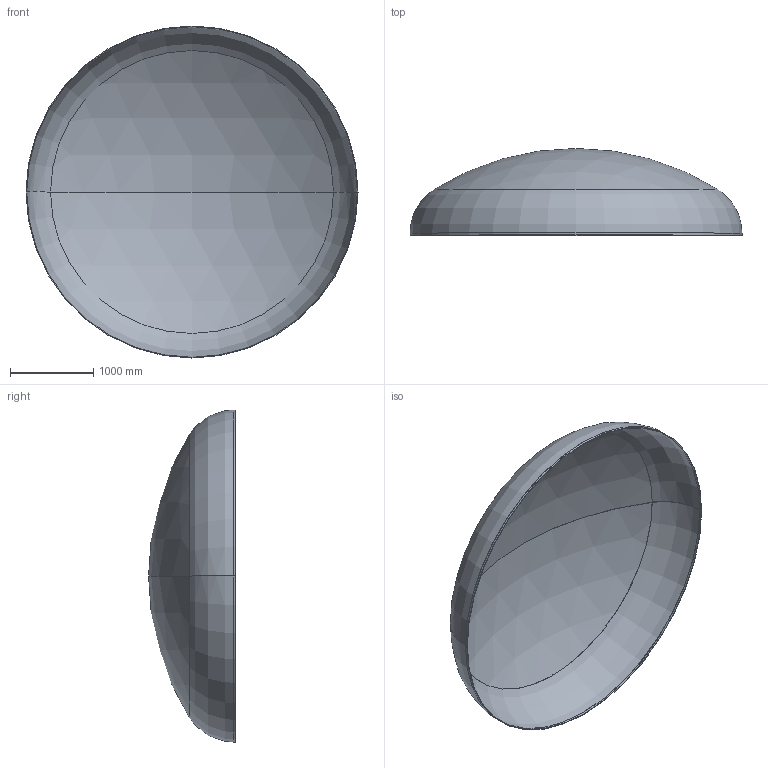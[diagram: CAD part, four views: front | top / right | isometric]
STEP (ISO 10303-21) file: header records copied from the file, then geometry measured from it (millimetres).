
FILE_DESCRIPTION (( 'STEP AP203' ), '1' );
FILE_NAME ('DIN 28013 Korbbogenform_-_Boden DIN 28013 - 4000 x 25 - I - s=8.step', '2016-07-01T21:59:01', ( '' ), ( '' ), 'SwSTEP 2.0', 'SolidWorks 2013', '' );
FILE_SCHEMA (( 'CONFIG_CONTROL_DESIGN' ));
Length unit declared in the file: millimetre
Products named in the file (1): DIN 28013 Korbbogenform_-_Boden DIN 28013 - 4000 x 25 - I - s=8
Bounding box: 4000 x 1045.29 x 4000 mm (x, y, z)
Volume: 141343483.3 mm3; surface area: 35436320.1 mm2
Topology: 1 solids, 1 shells, 13 faces, 24 edges, 14 vertices
Faces by surface type: torus 4, cylinder 4, sphere 4, plane 1
Entity records: 407 total; most frequent: DIRECTION 72, CARTESIAN_POINT 52, ORIENTED_EDGE 48, AXIS2_PLACEMENT_3D 34, EDGE_CURVE 24, CIRCLE 20, EDGE_LOOP 14, VERTEX_POINT 14
